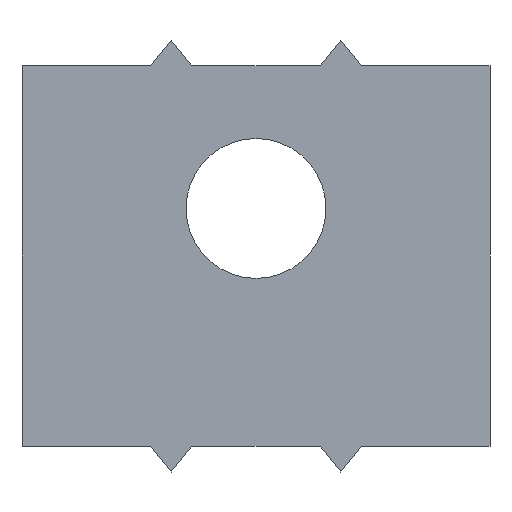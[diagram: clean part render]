
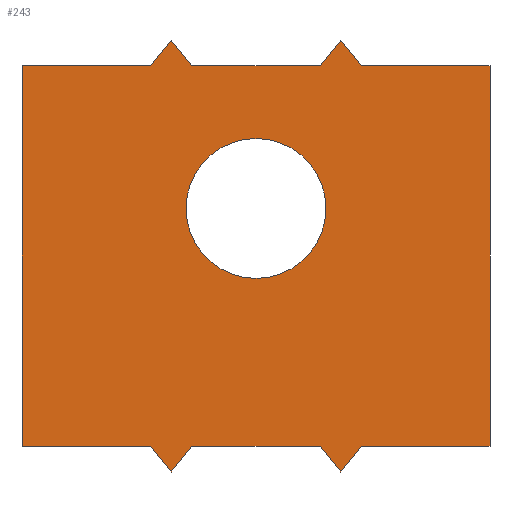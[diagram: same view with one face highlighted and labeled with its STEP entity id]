
A CAD part, front view. The second image highlights one B-rep face of the part: STEP entity #243.
In plain terms, the highlighted planar face has unit normal (0, -1, 0).
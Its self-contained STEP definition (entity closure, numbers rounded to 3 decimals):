
#24 = VERTEX_POINT('',#25);
#25 = CARTESIAN_POINT('',(12.5,-4.,37.));
#31 = EDGE_CURVE('',#24,#32,#34,.T.);
#32 = VERTEX_POINT('',#33);
#33 = CARTESIAN_POINT('',(0.,-4.,37.));
#34 = LINE('',#35,#36);
#35 = CARTESIAN_POINT('',(12.5,-4.,37.));
#36 = VECTOR('',#37,1.);
#37 = DIRECTION('',(-1.,0.,0.));
#62 = EDGE_CURVE('',#24,#63,#65,.T.);
#63 = VERTEX_POINT('',#64);
#64 = CARTESIAN_POINT('',(14.5,-4.,39.5));
#65 = LINE('',#66,#67);
#66 = CARTESIAN_POINT('',(12.5,-4.,37.));
#67 = VECTOR('',#68,1.);
#68 = DIRECTION('',(0.625,0.,0.781));
#93 = EDGE_CURVE('',#32,#94,#96,.T.);
#94 = VERTEX_POINT('',#95);
#95 = CARTESIAN_POINT('',(0.,-4.,0.));
#96 = LINE('',#97,#98);
#97 = CARTESIAN_POINT('',(0.,-4.,37.));
#98 = VECTOR('',#99,1.);
#99 = DIRECTION('',(0.,0.,-1.));
#243 = ADVANCED_FACE('',(#244,#351),#362,.F.);
#244 = FACE_BOUND('',#245,.F.);
#245 = EDGE_LOOP('',(#246,#247,#248,#256,#264,#272,#280,#288,#296,#304,
    #312,#320,#328,#336,#344,#350));
#246 = ORIENTED_EDGE('',*,*,#31,.F.);
#247 = ORIENTED_EDGE('',*,*,#62,.T.);
#248 = ORIENTED_EDGE('',*,*,#249,.T.);
#249 = EDGE_CURVE('',#63,#250,#252,.T.);
#250 = VERTEX_POINT('',#251);
#251 = CARTESIAN_POINT('',(16.5,-4.,37.));
#252 = LINE('',#253,#254);
#253 = CARTESIAN_POINT('',(14.5,-4.,39.5));
#254 = VECTOR('',#255,1.);
#255 = DIRECTION('',(0.625,0.,-0.781));
#256 = ORIENTED_EDGE('',*,*,#257,.F.);
#257 = EDGE_CURVE('',#258,#250,#260,.T.);
#258 = VERTEX_POINT('',#259);
#259 = CARTESIAN_POINT('',(29.,-4.,37.));
#260 = LINE('',#261,#262);
#261 = CARTESIAN_POINT('',(29.,-4.,37.));
#262 = VECTOR('',#263,1.);
#263 = DIRECTION('',(-1.,0.,0.));
#264 = ORIENTED_EDGE('',*,*,#265,.T.);
#265 = EDGE_CURVE('',#258,#266,#268,.T.);
#266 = VERTEX_POINT('',#267);
#267 = CARTESIAN_POINT('',(31.,-4.,39.5));
#268 = LINE('',#269,#270);
#269 = CARTESIAN_POINT('',(29.,-4.,37.));
#270 = VECTOR('',#271,1.);
#271 = DIRECTION('',(0.625,0.,0.781));
#272 = ORIENTED_EDGE('',*,*,#273,.T.);
#273 = EDGE_CURVE('',#266,#274,#276,.T.);
#274 = VERTEX_POINT('',#275);
#275 = CARTESIAN_POINT('',(33.,-4.,37.));
#276 = LINE('',#277,#278);
#277 = CARTESIAN_POINT('',(31.,-4.,39.5));
#278 = VECTOR('',#279,1.);
#279 = DIRECTION('',(0.625,0.,-0.781));
#280 = ORIENTED_EDGE('',*,*,#281,.F.);
#281 = EDGE_CURVE('',#282,#274,#284,.T.);
#282 = VERTEX_POINT('',#283);
#283 = CARTESIAN_POINT('',(45.5,-4.,37.));
#284 = LINE('',#285,#286);
#285 = CARTESIAN_POINT('',(45.5,-4.,37.));
#286 = VECTOR('',#287,1.);
#287 = DIRECTION('',(-1.,0.,0.));
#288 = ORIENTED_EDGE('',*,*,#289,.F.);
#289 = EDGE_CURVE('',#290,#282,#292,.T.);
#290 = VERTEX_POINT('',#291);
#291 = CARTESIAN_POINT('',(45.5,-4.,0.));
#292 = LINE('',#293,#294);
#293 = CARTESIAN_POINT('',(45.5,-4.,0.));
#294 = VECTOR('',#295,1.);
#295 = DIRECTION('',(0.,0.,1.));
#296 = ORIENTED_EDGE('',*,*,#297,.F.);
#297 = EDGE_CURVE('',#298,#290,#300,.T.);
#298 = VERTEX_POINT('',#299);
#299 = CARTESIAN_POINT('',(33.,-4.,0.));
#300 = LINE('',#301,#302);
#301 = CARTESIAN_POINT('',(33.,-4.,0.));
#302 = VECTOR('',#303,1.);
#303 = DIRECTION('',(1.,0.,0.));
#304 = ORIENTED_EDGE('',*,*,#305,.F.);
#305 = EDGE_CURVE('',#306,#298,#308,.T.);
#306 = VERTEX_POINT('',#307);
#307 = CARTESIAN_POINT('',(31.,-4.,-2.5));
#308 = LINE('',#309,#310);
#309 = CARTESIAN_POINT('',(31.,-4.,-2.5));
#310 = VECTOR('',#311,1.);
#311 = DIRECTION('',(0.625,0.,0.781));
#312 = ORIENTED_EDGE('',*,*,#313,.F.);
#313 = EDGE_CURVE('',#314,#306,#316,.T.);
#314 = VERTEX_POINT('',#315);
#315 = CARTESIAN_POINT('',(29.,-4.,0.));
#316 = LINE('',#317,#318);
#317 = CARTESIAN_POINT('',(29.,-4.,0.));
#318 = VECTOR('',#319,1.);
#319 = DIRECTION('',(0.625,0.,-0.781));
#320 = ORIENTED_EDGE('',*,*,#321,.F.);
#321 = EDGE_CURVE('',#322,#314,#324,.T.);
#322 = VERTEX_POINT('',#323);
#323 = CARTESIAN_POINT('',(16.5,-4.,0.));
#324 = LINE('',#325,#326);
#325 = CARTESIAN_POINT('',(16.5,-4.,0.));
#326 = VECTOR('',#327,1.);
#327 = DIRECTION('',(1.,0.,0.));
#328 = ORIENTED_EDGE('',*,*,#329,.F.);
#329 = EDGE_CURVE('',#330,#322,#332,.T.);
#330 = VERTEX_POINT('',#331);
#331 = CARTESIAN_POINT('',(14.5,-4.,-2.5));
#332 = LINE('',#333,#334);
#333 = CARTESIAN_POINT('',(14.5,-4.,-2.5));
#334 = VECTOR('',#335,1.);
#335 = DIRECTION('',(0.625,0.,0.781));
#336 = ORIENTED_EDGE('',*,*,#337,.F.);
#337 = EDGE_CURVE('',#338,#330,#340,.T.);
#338 = VERTEX_POINT('',#339);
#339 = CARTESIAN_POINT('',(12.5,-4.,0.));
#340 = LINE('',#341,#342);
#341 = CARTESIAN_POINT('',(12.5,-4.,0.));
#342 = VECTOR('',#343,1.);
#343 = DIRECTION('',(0.625,0.,-0.781));
#344 = ORIENTED_EDGE('',*,*,#345,.F.);
#345 = EDGE_CURVE('',#94,#338,#346,.T.);
#346 = LINE('',#347,#348);
#347 = CARTESIAN_POINT('',(0.,-4.,0.));
#348 = VECTOR('',#349,1.);
#349 = DIRECTION('',(1.,0.,0.));
#350 = ORIENTED_EDGE('',*,*,#93,.F.);
#351 = FACE_BOUND('',#352,.F.);
#352 = EDGE_LOOP('',(#353));
#353 = ORIENTED_EDGE('',*,*,#354,.T.);
#354 = EDGE_CURVE('',#355,#355,#357,.T.);
#355 = VERTEX_POINT('',#356);
#356 = CARTESIAN_POINT('',(29.55,-4.,23.125));
#357 = CIRCLE('',#358,6.8);
#358 = AXIS2_PLACEMENT_3D('',#359,#360,#361);
#359 = CARTESIAN_POINT('',(22.75,-4.,23.125));
#360 = DIRECTION('',(0.,-1.,0.));
#361 = DIRECTION('',(1.,0.,0.));
#362 = PLANE('',#363);
#363 = AXIS2_PLACEMENT_3D('',#364,#365,#366);
#364 = CARTESIAN_POINT('',(22.75,-4.,18.5));
#365 = DIRECTION('',(0.,1.,0.));
#366 = DIRECTION('',(0.,0.,1.));
